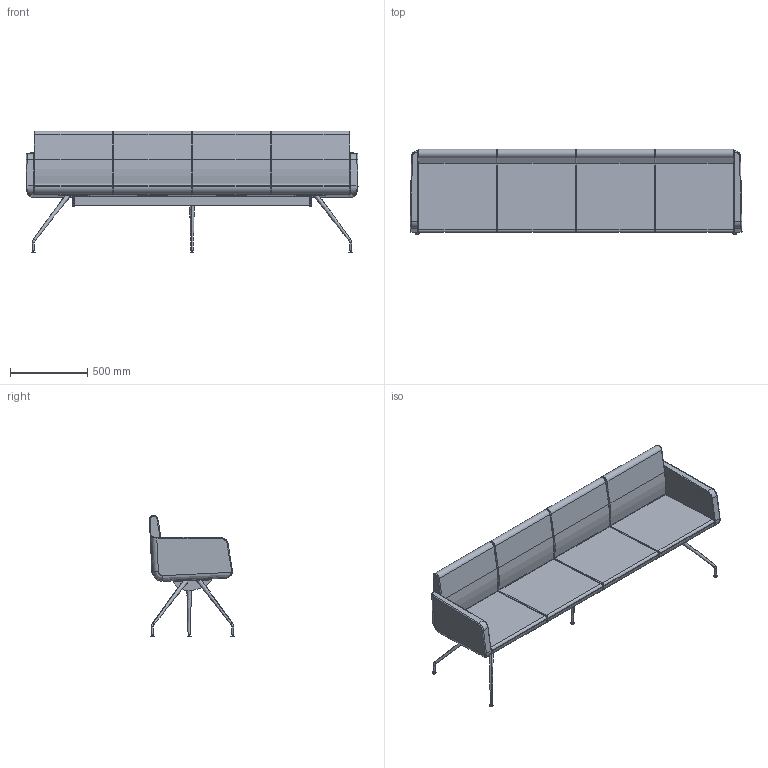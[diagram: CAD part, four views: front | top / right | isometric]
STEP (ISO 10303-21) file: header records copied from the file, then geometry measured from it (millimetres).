
FILE_DESCRIPTION(/* description */ (''),/* implementation_level */ '2;1');
FILE_NAME(/* name */ 'DELTA4~1',/* time_stamp */ '2016-06-16T16:27:30+02:00',/* author */ (''),/* organization */ (''),/* preprocessor_version */ 'ST-DEVELOPER v15',/* originating_system */ '',/* authorisation */ '');
FILE_SCHEMA (('CONFIG_CONTROL_DESIGN'));
Length unit declared in the file: millimetre
Products named in the file (1): Document
Bounding box: 2143.67 x 551 x 785.18 mm (x, y, z)
Volume: 135193443 mm3; surface area: 5740589.6 mm2
Topology: 12 solids, 23 shells, 334 faces, 747 edges, 448 vertices
Faces by surface type: bspline 288, plane 46
Entity records: 10968 total; most frequent: CARTESIAN_POINT 6952, ORIENTED_EDGE 1438, EDGE_CURVE 742, VERTEX_POINT 442, EDGE_LOOP 339, ADVANCED_FACE 334, FACE_OUTER_BOUND 334, B_SPLINE_CURVE_WITH_KNOTS 89
